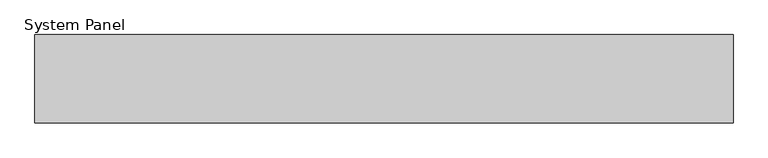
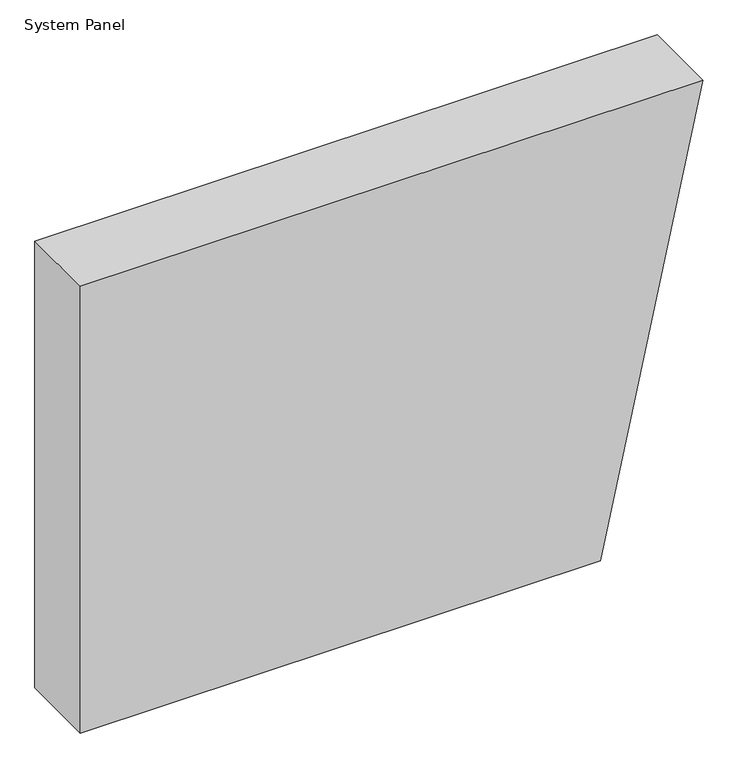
"""IFC4 building model written with IfcOpenShell, lengths in millimetres: plate geometry, System Panel : Equitilt 200mm Horizontal - Plain RHEA - EPS-FR."""

from ifc_helpers import new_model, si_unit, frame, origin, place, context, project, spatial, polyline, outline, extrude, source, transform, mapped, element, save


def system_panel_ad831b4e(model_context):
    return source(origin(), model_context, "Body", "SweptSolid", [
        extrude(outline(polyline([(0.0, -791.3074928), (0.0, 530.4358309), (1200.0, 791.3074928), (1200.0, -791.3074928), (0.0, -791.3074928)])), frame((0.0, -200.0, 0.0), z_axis=(0.0, 1.0, 0.0), x_axis=(0.0, 0.0, 1.0)), (0.0, 0.0, 1.0), 200.0),
    ])


if __name__ == "__main__":
    model = new_model("IFC4")
    model_context = context("Model", 3, world=origin())
    ifc_project = project(units=[si_unit("LENGTHUNIT", "METRE", prefix="MILLI")], contexts=[model_context])
    site = spatial("IfcSite", under=ifc_project)
    building = spatial("IfcBuilding", under=site)
    placement = place(None, origin())
    system_panel_shape = system_panel_ad831b4e(model_context)
    element("IfcPlate", 1, ObjectType="System Panel : Equitilt 200mm Horizontal - Plain RHEA - EPS-FR", at=placement, inside=building, context=model_context, shape_type="MappedRepresentation", body=[
        mapped(system_panel_shape, transform((0.0, 0.0, 0.0), x_axis=(1.0, 0.0, 0.0), y_axis=(0.0, 1.0, 0.0), z_axis=(0.0, 0.0, 1.0))),
    ])
    save(model, "model.ifc")
